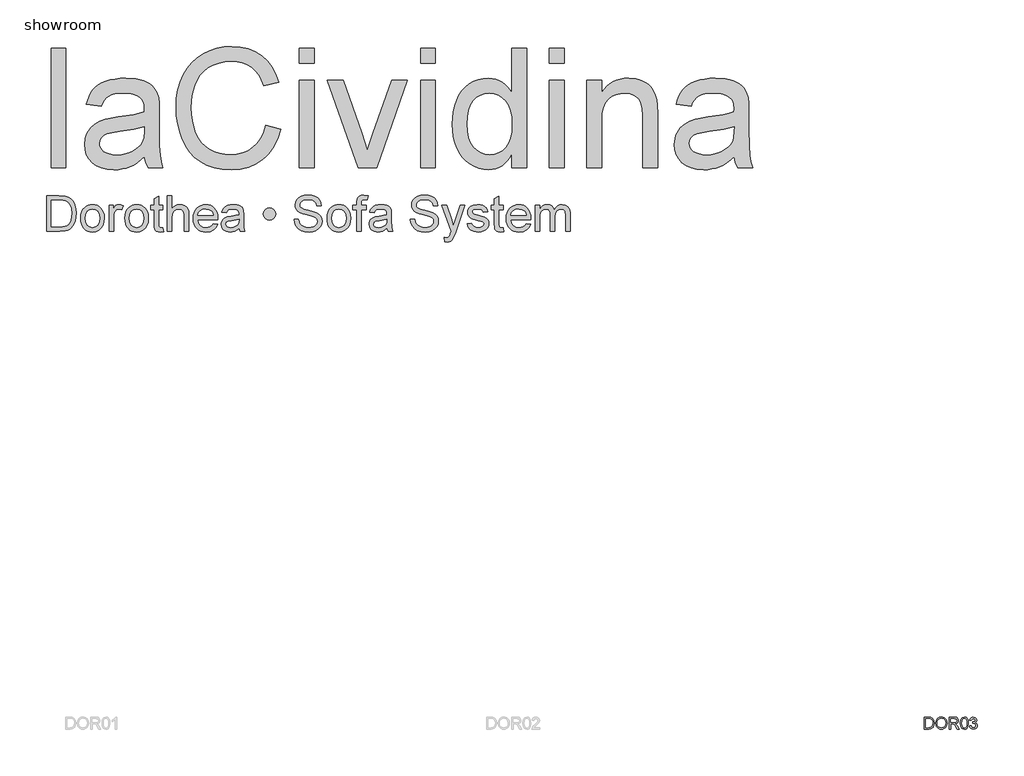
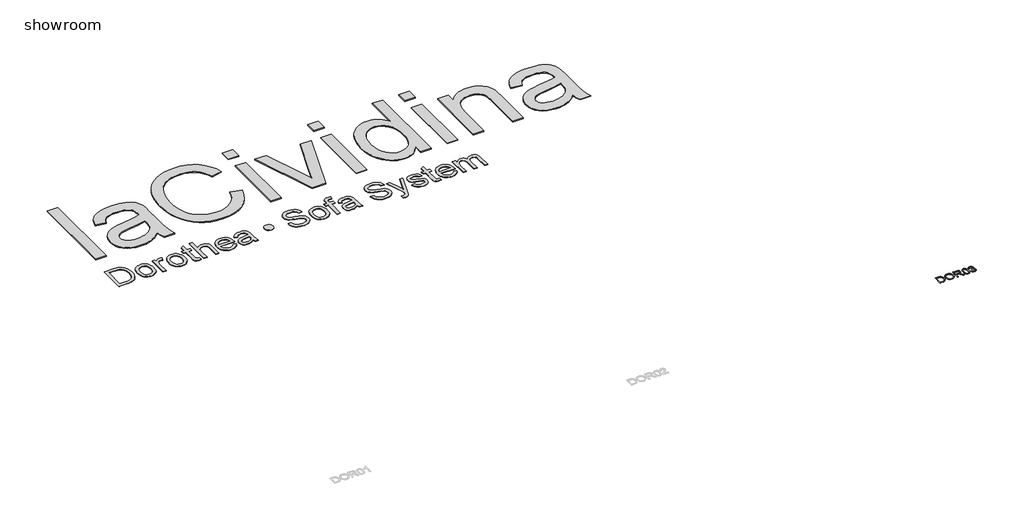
# One storey, part 3 of 4: 3 proxies.
"""IFC4 building model written with IfcOpenShell, lengths in millimetres."""

from ifc_helpers import new_model, si_unit, origin, origin_with_axes, place, context, project, spatial, polyline, outline, extrude, element, save

model = new_model("IFC4")

# Units and contexts
model_context = context("Model", 3, world=origin())
ifc_project = project(units=[si_unit("LENGTHUNIT", "METRE", prefix="MILLI")], contexts=[model_context])

# Site, building, storey
site = spatial("IfcSite", under=ifc_project)
building = spatial("IfcBuilding", under=site)
storey = spatial("IfcBuildingStorey", under=building, Name="showroom", Elevation=0.0)

# Proxies
placement = place(None, origin())
element("IfcBuildingElementProxy", 1, Name="1000mm Arial", ObjectType="1000mm Arial", at=placement, inside=storey, context=model_context, shape_type="SweptSolid", body=[
    extrude(outline(polyline([(-1952.8965336, 4695.1020807), (-1952.8965336, 5699.6651822), (-1827.326146, 5699.6651822), (-1827.326146, 4695.1020807), (-1952.8965336, 4695.1020807)])), origin_with_axes(), (0.0, 0.0, 1.0), 10.0),
    extrude(outline(polyline([(-1168.0816106, 4789.2798714), (-1197.8570596, 4761.3361682), (-1228.0770326, 4737.8377058), (-1258.7415298, 4718.7844841), (-1289.850551, 4704.1765032), (-1321.7566499, 4693.3393128), (-1354.81238, 4685.5984625), (-1389.0177413, 4680.9539523), (-1424.3727339, 4679.4057822), (-1480.283133, 4683.1305874), (-1529.311073, 4694.305003), (-1571.4565541, 4712.929029), (-1606.7195762, 4739.0026654), (-1634.5636447, 4770.8704433), (-1654.4522651, 4806.8768935), (-1666.3854373, 4847.0220163), (-1670.3631613, 4891.3058114), (-1664.3544221, 4943.3611138), (-1656.843498, 4967.5953402), (-1646.3282043, 4990.6339501), (-1618.5224569, 5031.1009696), (-1583.1751285, 5062.7388212), (-1541.6351199, 5086.6511509), (-1495.2513316, 5103.9416046), (-1450.0631599, 5113.5678502), (-1386.6035157, 5122.8262137), (-1258.2126994, 5142.6918415), (-1208.6406006, 5153.9122423), (-1168.8173746, 5165.9910345), (-1168.0816106, 5193.9500661), (-1170.2429173, 5224.3923012), (-1176.7268375, 5249.9907567), (-1187.5333711, 5270.7454326), (-1202.6625181, 5286.6563289), (-1228.8127966, 5302.5365684), (-1260.665246, 5313.8795966), (-1298.2198664, 5320.6854135), (-1341.4766577, 5322.9540191), (-1381.6984225, 5321.4441701), (-1416.27933, 5316.914623), (-1445.2193803, 5309.3653779), (-1468.5185733, 5298.7964348), (-1487.6637655, 5284.3800591), (-1504.1418132, 5265.2885164), (-1517.9527164, 5241.5218066), (-1529.0964752, 5213.0799299), (-1654.6668629, 5228.7762283), (-1645.1095952, 5264.9512912), (-1632.8698547, 5297.4475341), (-1617.9476412, 5326.2649571), (-1600.3429549, 5351.4035601), (-1579.2970391, 5373.3691809), (-1554.0511372, 5392.6676572), (-1524.6052492, 5409.2989891), (-1490.959375, 5423.2631765), (-1453.7956293, 5434.3149647), (-1413.7961265, 5442.2090992), (-1370.9608667, 5446.9455799), (-1325.2898499, 5448.5244068), (-1240.4010795, 5442.9448632), (-1204.5555776, 5435.9704337), (-1173.1093312, 5426.2062324), (-1122.3722727, 5401.0369726), (-1102.8208775, 5386.3140286), (-1087.1475717, 5370.1655418), (-1063.787065, 5331.9977848), (-1048.6425895, 5284.9395463), (-1044.0440646, 5241.5294708), (-1042.5112229, 5175.065457), (-1042.5112229, 5018.8382364), (-1040.9170676, 4882.752555), (-1036.1346017, 4800.6842133), (-1026.6922971, 4746.7588442), (-1011.118626, 4695.1020807), (-1136.6890137, 4695.1020807), (-1156.7998961, 4738.7574108), (-1168.0816106, 4789.2798714)]), holes=[polyline([(-1168.0816106, 5040.4206468), (-1252.4492148, 5019.5126868), (-1370.6619626, 5001.9156646), (-1435.8077326, 4992.2894191), (-1478.6966419, 4981.5595276), (-1506.8089577, 4967.6413254), (-1527.6249472, 4948.450148), (-1540.500817, 4925.4575233), (-1544.7927737, 4900.1349793), (-1542.4551901, 4880.6219052), (-1535.4424396, 4862.7949568), (-1523.7545221, 4846.6541343), (-1507.3914375, 4832.1994375), (-1486.50647, 4820.2892579), (-1461.2529039, 4811.7819868), (-1431.6307391, 4806.6776241), (-1397.6399756, 4804.9761699), (-1362.9364407, 4806.8539009), (-1330.1949431, 4812.487094), (-1299.4154829, 4821.8757491), (-1270.5980599, 4835.0198662), (-1244.6010656, 4850.8311278), (-1222.2828912, 4868.2212162), (-1203.6435368, 4887.1901316), (-1188.6830023, 4907.7378739), (-1179.9917902, 4926.1319736), (-1173.7837815, 4948.450148), (-1168.8173746, 5004.8587206), (-1168.0816106, 5040.4206468)])]), origin_with_axes(), (0.0, 0.0, 1.0), 10.0),
    extrude(outline(polyline([(-147.8222106, 5052.1928707), (-22.2518229, 5019.8192551), (-47.099186, 4941.7286374), (-80.1932372, 4873.4941915), (-121.5339764, 4815.1159174), (-145.296854, 4789.6228448), (-171.1214037, 4766.5938151), (-227.8365446, 4728.4490507), (-290.5604248, 4701.2027904), (-359.2930442, 4684.8550343), (-434.0344029, 4679.4057822), (-510.6075073, 4683.5291262), (-579.6850161, 4695.8991583), (-641.2669293, 4716.5158785), (-695.3532468, 4745.3792867), (-742.6873968, 4782.0601873), (-784.0128076, 4826.1293846), (-819.3294792, 4877.5868787), (-848.6374114, 4936.4326695), (-871.6530288, 5000.1222399), (-888.0927554, 5066.1110728), (-897.9565914, 5134.3991682), (-901.2445368, 5204.986526), (-897.5273958, 5280.7242317), (-886.3759728, 5351.4648737), (-867.7902678, 5417.208452), (-841.7702809, 5477.9549664), (-808.8984918, 5532.7004058), (-769.7573803, 5580.4407589), (-724.3469465, 5621.1760257), (-672.6671904, 5654.9062061), (-616.4732157, 5681.3553887), (-557.5201259, 5700.247662), (-495.8079212, 5711.583026), (-431.3366016, 5715.3614806), (-359.5153062, 5710.4717158), (-293.6567649, 5695.8024212), (-233.7609776, 5671.353597), (-179.8279442, 5637.125243), (-132.746713, 5594.0217359), (-93.4063322, 5542.9474522), (-61.8068016, 5483.902392), (-37.9481214, 5416.8865552), (-163.5185091, 5386.9654863), (-183.2921663, 5436.3459799), (-207.0512119, 5478.5374462), (-234.7956457, 5513.5398852), (-266.5254677, 5541.3532969), (-302.4246191, 5562.5448327), (-342.6770407, 5577.6816439), (-387.2827327, 5586.7637307), (-436.2416949, 5589.7910929), (-492.5736254, 5586.4341697), (-544.0924331, 5576.3634001), (-590.7981181, 5559.5787841), (-632.6906803, 5536.0803216), (-669.2412893, 5506.9256735), (-699.9211149, 5473.1725005), (-724.7301569, 5434.8208025), (-743.6684155, 5391.8705795), (-757.6709239, 5346.2685406), (-767.6727157, 5299.9613944), (-773.6737907, 5252.9491411), (-775.6741491, 5205.2317807), (-773.3059087, 5145.2670154), (-766.2011877, 5089.2263248), (-754.359986, 5037.1097089), (-737.7823036, 4988.9171675), (-716.1998932, 4945.6067268), (-689.3445075, 4908.1364127), (-657.2161466, 4876.5062253), (-619.8148104, 4850.7161646), (-578.9569164, 4830.7049169), (-536.4588817, 4816.4111686), (-492.3207065, 4807.8349196), (-446.5423907, 4804.9761699), (-391.9502355, 4808.8695877), (-341.7266789, 4820.549841), (-295.8717211, 4840.0169299), (-254.3853619, 4867.2708544), (-218.2486201, 4902.1889871), (-188.4425143, 4944.6487007), (-164.9670445, 4994.6499952), (-147.8222106, 5052.1928707)])), origin_with_axes(), (0.0, 0.0, 1.0), 10.0),
    extrude(outline(polyline([(134.7111617, 4695.1020807), (134.7111617, 5432.8281083), (260.2815493, 5432.8281083), (260.2815493, 4695.1020807), (134.7111617, 4695.1020807)])), origin_with_axes(), (0.0, 0.0, 1.0), 10.0),
    extrude(outline(polyline([(134.7111617, 5574.0947945), (134.7111617, 5699.6651822), (260.2815493, 5699.6651822), (260.2815493, 5574.0947945), (134.7111617, 5574.0947945)])), origin_with_axes(), (0.0, 0.0, 1.0), 10.0),
    extrude(outline(polyline([(629.6350725, 4695.1020807), (370.1556386, 5432.8281083), (503.0836662, 5432.8281083), (660.2919054, 4990.8792048), (707.6260555, 4842.2548787), (753.9791869, 4982.5405462), (912.1684448, 5432.8281083), (1045.0964724, 5432.8281083), (788.8053491, 4695.1020807), (629.6350725, 4695.1020807)])), origin_with_axes(), (0.0, 0.0, 1.0), 10.0),
    extrude(outline(polyline([(1154.9705616, 4695.1020807), (1154.9705616, 5432.8281083), (1280.5409493, 5432.8281083), (1280.5409493, 4695.1020807), (1154.9705616, 4695.1020807)])), origin_with_axes(), (0.0, 0.0, 1.0), 10.0),
    extrude(outline(polyline([(1154.9705616, 5574.0947945), (1154.9705616, 5699.6651822), (1280.5409493, 5699.6651822), (1280.5409493, 5574.0947945), (1154.9705616, 5574.0947945)])), origin_with_axes(), (0.0, 0.0, 1.0), 10.0),
    extrude(outline(polyline([(1924.0891862, 4695.1020807), (1924.0891862, 4813.5600831), (1906.2967268, 4782.1176688), (1886.5192374, 4754.8675765), (1864.7567182, 4731.809806), (1841.009169, 4712.9443574), (1815.2765898, 4698.2712308), (1787.5589807, 4687.790426), (1757.8563417, 4681.5019432), (1726.1686728, 4679.4057822), (1684.7206347, 4682.4408087), (1644.9893792, 4691.5458881), (1606.9749064, 4706.7210204), (1570.6772162, 4727.9662056), (1537.2306114, 4754.6453144), (1507.769395, 4786.1222176), (1482.2935668, 4822.3969152), (1460.8031269, 4863.4694071), (1443.7425994, 4908.5579442), (1431.5565083, 4956.8807771), (1424.2448537, 5008.4379059), (1421.8076355, 5063.2293305), (1424.0532485, 5117.0167439), (1430.7900875, 5168.2596401), (1442.0181526, 5216.9580192), (1457.7374436, 5263.1118812), (1477.9402965, 5305.3723254), (1502.6190471, 5342.3904512), (1531.7736952, 5374.1662585), (1565.4042409, 5400.6997474), (1602.322732, 5421.6230359), (1641.3412161, 5436.568242), (1682.4596932, 5445.5353656), (1725.6781635, 5448.5244068), (1757.2853582, 5446.3860927), (1787.1144567, 5439.9711504), (1815.1654588, 5429.2795799), (1841.4383646, 5414.3113812), (1865.6419342, 5395.9249457), (1887.4849277, 5374.9786646), (1906.967345, 5351.4725379), (1924.0891862, 5325.4065657), (1924.0891862, 5699.6651822), (2049.6595739, 5699.6651822), (2049.6595739, 4695.1020807), (1924.0891862, 4695.1020807)]), holes=[polyline([(1547.3780231, 5063.7198398), (1550.9188873, 5002.8277054), (1561.54148, 4950.1362738), (1579.245801, 4905.645545), (1604.0318504, 4869.3555191), (1633.6310226, 4841.1895538), (1665.7747119, 4821.0710072), (1700.4629184, 4808.9998792), (1737.695642, 4804.9761699), (1775.1046424, 4808.8159382), (1809.5859152, 4820.3352432), (1841.1394605, 4839.5340848), (1869.7652782, 4866.4124631), (1893.531988, 4901.1849758), (1910.5082092, 4944.0662209), (1920.693942, 4995.0561983), (1924.0891862, 5054.154908), (1920.6326283, 5118.9481244), (1910.2629545, 5174.5136341), (1892.980165, 5220.851437), (1868.7842596, 5257.9615333), (1839.5299768, 5286.3957458), (1807.0720549, 5306.7058977), (1771.410494, 5318.8919887), (1732.545294, 5322.9540191), (1694.5768065, 5319.0529371), (1659.8886, 5307.3496911), (1628.4806747, 5287.8442812), (1600.3530304, 5260.5367073), (1577.1764647, 5224.8291611), (1560.621775, 5180.1238345), (1550.6889611, 5126.4207274), (1547.3780231, 5063.7198398)])]), origin_with_axes(), (0.0, 0.0, 1.0), 10.0),
    extrude(outline(polyline([(2238.0151554, 4695.1020807), (2238.0151554, 5432.8281083), (2363.5855431, 5432.8281083), (2363.5855431, 4695.1020807), (2238.0151554, 4695.1020807)])), origin_with_axes(), (0.0, 0.0, 1.0), 10.0),
    extrude(outline(polyline([(2238.0151554, 5574.0947945), (2238.0151554, 5699.6651822), (2363.5855431, 5699.6651822), (2363.5855431, 5574.0947945), (2238.0151554, 5574.0947945)])), origin_with_axes(), (0.0, 0.0, 1.0), 10.0),
    extrude(outline(polyline([(2551.9411246, 4695.1020807), (2551.9411246, 5432.8281083), (2677.5115123, 5432.8281083), (2677.5115123, 5329.8211497), (2698.2278672, 5357.6422256), (2721.1361856, 5381.7538247), (2746.2364675, 5402.155947), (2773.5287131, 5418.8485925), (2803.0129221, 5431.8317613), (2834.6890948, 5441.1054532), (2868.5572309, 5446.6696684), (2904.6173307, 5448.5244068), (2966.5134764, 5442.5463244), (2995.5071761, 5435.0737213), (3023.1979605, 5424.6120771), (3048.5358329, 5411.7208789), (3070.4707968, 5396.9596138), (3089.0028523, 5380.3282819), (3104.1319994, 5361.8268833), (3126.9713399, 5319.305856), (3141.7785902, 5269.4885025), (3146.7449972, 5221.8477841), (3148.4004661, 5148.0874441), (3148.4004661, 4695.1020807), (3022.8300785, 4695.1020807), (3022.8300785, 5131.1648723), (3019.2125722, 5196.0960444), (3008.3600533, 5242.2652348), (2999.7378191, 5259.7319654), (2988.3411414, 5275.3439576), (2974.1700204, 5289.1012113), (2957.224456, 5301.0037267), (2917.3399163, 5317.466446), (2871.0174418, 5322.9540191), (2832.8880058, 5319.8730074), (2797.4716996, 5310.6299723), (2764.7685231, 5295.2249137), (2734.7784762, 5273.6578318), (2709.7241795, 5243.4761797), (2691.8282533, 5202.227411), (2681.0906976, 5149.9115256), (2677.5115123, 5086.5285235), (2677.5115123, 4695.1020807), (2551.9411246, 4695.1020807)])), origin_with_axes(), (0.0, 0.0, 1.0), 10.0),
    extrude(outline(polyline([(3791.948703, 4789.2798714), (3762.1732541, 4761.3361682), (3731.953281, 4737.8377058), (3701.2887839, 4718.7844841), (3670.1797626, 4704.1765032), (3638.2736638, 4693.3393128), (3605.2179337, 4685.5984625), (3571.0125723, 4680.9539523), (3535.6575797, 4679.4057822), (3479.7471807, 4683.1305874), (3430.7192406, 4694.305003), (3388.5737595, 4712.929029), (3353.3107375, 4739.0026654), (3325.466669, 4770.8704433), (3305.5780486, 4806.8768935), (3293.6448764, 4847.0220163), (3289.6671523, 4891.3058114), (3295.6758915, 4943.3611138), (3303.1868156, 4967.5953402), (3313.7021093, 4990.6339501), (3341.5078568, 5031.1009696), (3376.8551852, 5062.7388212), (3418.3951938, 5086.6511509), (3464.778982, 5103.9416046), (3509.9671537, 5113.5678502), (3573.4267979, 5122.8262137), (3701.8176142, 5142.6918415), (3751.3897131, 5153.9122423), (3791.2129391, 5165.9910345), (3791.948703, 5193.9500661), (3789.7873963, 5224.3923012), (3783.3034762, 5249.9907567), (3772.4969425, 5270.7454326), (3757.3677955, 5286.6563289), (3731.217517, 5302.5365684), (3699.3650676, 5313.8795966), (3661.8104472, 5320.6854135), (3618.553656, 5322.9540191), (3578.3318912, 5321.4441701), (3543.7509836, 5316.914623), (3514.8109333, 5309.3653779), (3491.5117403, 5298.7964348), (3472.3665481, 5284.3800591), (3455.8885004, 5265.2885164), (3442.0775972, 5241.5218066), (3430.9338384, 5213.0799299), (3305.3634508, 5228.7762283), (3314.9207184, 5264.9512912), (3327.160459, 5297.4475341), (3342.0826724, 5326.2649571), (3359.6873587, 5351.4035601), (3380.7332745, 5373.3691809), (3405.9791764, 5392.6676572), (3435.4250645, 5409.2989891), (3469.0709386, 5423.2631765), (3506.2346843, 5434.3149647), (3546.2341871, 5442.2090992), (3589.0694469, 5446.9455799), (3634.7404638, 5448.5244068), (3719.6292342, 5442.9448632), (3755.4747361, 5435.9704337), (3786.9209824, 5426.2062324), (3837.6580409, 5401.0369726), (3857.2094361, 5386.3140286), (3872.882742, 5370.1655418), (3896.2432487, 5331.9977848), (3911.3877241, 5284.9395463), (3915.9862491, 5241.5294708), (3917.5190907, 5175.065457), (3917.5190907, 5018.8382364), (3919.113246, 4882.752555), (3923.895712, 4800.6842133), (3933.3380165, 4746.7588442), (3948.9116877, 4695.1020807), (3823.3413, 4695.1020807), (3803.2304176, 4738.7574108), (3791.948703, 4789.2798714)]), holes=[polyline([(3791.948703, 5040.4206468), (3707.5810988, 5019.5126868), (3589.368351, 5001.9156646), (3524.2225811, 4992.2894191), (3481.3336718, 4981.5595276), (3453.221356, 4967.6413254), (3432.4053664, 4948.450148), (3419.5294966, 4925.4575233), (3415.23754, 4900.1349793), (3417.5751235, 4880.6219052), (3424.587874, 4862.7949568), (3436.2757916, 4846.6541343), (3452.6388762, 4832.1994375), (3473.5238436, 4820.2892579), (3498.7774097, 4811.7819868), (3528.3995745, 4806.6776241), (3562.3903381, 4804.9761699), (3597.0938729, 4806.8539009), (3629.8353705, 4812.487094), (3660.6148308, 4821.8757491), (3689.4322537, 4835.0198662), (3715.429248, 4850.8311278), (3737.7474224, 4868.2212162), (3756.3867768, 4887.1901316), (3771.3473113, 4907.7378739), (3780.0385234, 4926.1319736), (3786.2465321, 4948.450148), (3791.2129391, 5004.8587206), (3791.948703, 5040.4206468)])]), origin_with_axes(), (0.0, 0.0, 1.0), 10.0),
])
element("IfcBuildingElementProxy", 2, Name="100mm Arial", ObjectType="100mm Arial", at=placement, inside=storey, context=model_context, shape_type="SweptSolid", body=[
    extrude(outline(polyline([(5391.8123559, -24.8979193), (5391.8123559, 75.5583908), (5426.4668398, 75.5583908), (5444.3949557, 74.1113883), (5459.1592865, 66.9254267), (5471.0541377, 49.7576002), (5475.0027377, 25.869796), (5472.3294619, 5.5994981), (5465.4623313, -9.0299426), (5456.2898069, -18.1411534), (5444.2845911, -23.1811367), (5428.1345716, -24.8979193), (5391.8123559, -24.8979193)]), holes=[polyline([(5404.3693947, -12.3408806), (5426.5894672, -12.3408806), (5442.7517495, -10.5259961), (5452.0714267, -5.4001736), (5459.7111095, 7.0710261), (5462.445699, 26.0659997), (5461.1059954, 39.75121), (5457.0868846, 49.8557021), (5444.0515992, 60.9902638), (5426.2461106, 63.0013521), (5404.3693947, 63.0013521), (5404.3693947, -12.3408806)])]), origin_with_axes(), (0.0, 0.0, 1.0), 2.0),
    extrude(outline(polyline([(5487.5597765, 24.0058606), (5490.9075027, 46.2198017), (5500.9506811, 63.0258775), (5516.285229, 73.6024849), (5535.5070632, 77.1280207), (5548.68337, 75.4725517), (5560.4985134, 70.5061448), (5570.3087, 62.5782878), (5577.4701361, 52.0384686), (5581.8479319, 39.3955907), (5583.3071971, 25.1585575), (5581.7712898, 10.7314519), (5577.1635678, -2.0892356), (5569.7384829, -12.6474489), (5559.7504867, -20.2871317), (5548.0365108, -24.9224448), (5535.4334868, -26.4675492), (5522.0548449, -24.7599636), (5510.1722565, -19.6372068), (5500.3865954, -11.562197), (5493.2987356, -0.9978524), (5487.5597765, 24.0058606)]), holes=[polyline([(5500.1168153, 23.8832332), (5502.6276099, 8.1685407), (5510.1599937, -3.8060183), (5521.4815622, -11.3843874), (5535.3599104, -13.9105104), (5549.4405938, -11.3598619), (5560.7805563, -3.7079164), (5568.2577578, 8.6345245), (5570.7501584, 25.2566593), (5566.4827272, 45.9806784), (5554.0115276, 59.7026768), (5535.5806396, 64.5709819), (5522.073239, 62.2257342), (5510.5891894, 55.189991), (5502.7349088, 42.6728061), (5500.1168153, 23.8832332)])]), origin_with_axes(), (0.0, 0.0, 1.0), 2.0),
    extrude(outline(polyline([(5600.5731254, -24.8979193), (5600.5731254, 75.5583908), (5643.8605735, 75.5583908), (5663.9591932, 72.8483268), (5674.9466021, 63.2588694), (5679.0546177, 48.065343), (5677.3531635, 38.1693174), (5672.2488008, 29.9655489), (5663.5882455, 23.9506783), (5651.2182134, 20.6213462), (5658.3551241, 15.2502691), (5668.5331927, 2.3253483), (5685.2840862, -24.8979193), (5670.6914337, -24.8979193), (5657.6193601, -4.0757984), (5648.1770556, 9.7075137), (5641.542917, 16.219025), (5635.5709659, 18.610258), (5628.2869024, 19.0517164), (5613.1301642, 19.0517164), (5613.1301642, -24.8979193), (5600.5731254, -24.8979193)]), holes=[polyline([(5613.1301642, 31.6087551), (5641.2363486, 31.6087551), (5655.5714837, 33.3868514), (5663.7139385, 39.0767596), (5666.497579, 47.5993592), (5661.1878155, 58.6603445), (5644.4001338, 63.0013521), (5613.1301642, 63.0013521), (5613.1301642, 31.6087551)])]), origin_with_axes(), (0.0, 0.0, 1.0), 2.0),
    extrude(outline(polyline([(5696.320546, 24.5208954), (5700.0116287, 53.4241574), (5710.9745122, 70.0892118), (5729.2827728, 75.5583908), (5743.9490017, 72.3210293), (5754.0780193, 62.9890893), (5759.9641312, 48.1266567), (5762.2449996, 24.5208954), (5758.5907051, -4.2597394), (5747.6646098, -20.961582), (5739.4332502, -25.0910574), (5729.2827728, -26.4675492), (5716.2352247, -24.0763162), (5706.3269363, -16.9026173), (5698.8221436, 0.0873995), (5696.320546, 24.5208954)]), holes=[polyline([(5708.8775848, 24.5454208), (5710.3491128, 4.7932234), (5714.7636967, -6.6387096), (5721.3365217, -12.0925602), (5729.2827728, -13.9105104), (5737.2290239, -12.0864288), (5743.8018489, -6.6141842), (5748.2164328, 4.8238802), (5749.6879608, 24.5454208), (5748.2654838, 43.8530942), (5743.9980526, 55.373932), (5737.4374904, 61.094497), (5729.13562, 63.0013521), (5721.275208, 61.3213576), (5714.9599005, 56.2813743), (5710.3981637, 44.0431666), (5708.8775848, 24.5454208)])]), origin_with_axes(), (0.0, 0.0, 1.0), 2.0),
    extrude(outline(polyline([(5773.2324085, 1.7857881), (5785.7894473, 3.3554179), (5792.7178915, -9.8638085), (5805.6796005, -13.9105104), (5814.2880392, -12.5186902), (5820.9344405, -8.3432295), (5826.5998233, 5.4400825), (5820.9834915, 18.426317), (5806.7096701, 23.5644022), (5797.9050276, 22.1909761), (5799.3029792, 34.7480148), (5801.3140675, 34.600862), (5815.5633634, 38.2061056), (5820.3090411, 42.7801051), (5821.8909337, 49.2916164), (5817.3046715, 59.1140656), (5805.4833967, 63.0013521), (5793.5149692, 59.0772774), (5787.3590771, 47.3050536), (5774.8020383, 48.8746834), (5778.4992524, 60.1502666), (5785.0782087, 68.5686329), (5794.0790549, 73.8109513), (5805.0419383, 75.5583908), (5820.1864138, 72.1125628), (5830.7814153, 62.6947837), (5834.4479725, 50.0273804), (5830.9653563, 38.4513602), (5820.6646604, 30.1372272), (5834.3498706, 21.5533139), (5839.156862, 5.2193533), (5836.7533663, -7.0188544), (5829.5428792, -17.2459738), (5818.6597035, -24.1621553), (5805.2381421, -26.4675492), (5793.0980362, -24.4993805), (5783.2142733, -18.5948745), (5776.3410114, -9.5633715), (5773.2324085, 1.7857881)])), origin_with_axes(), (0.0, 0.0, 1.0), 2.0),
])
element("IfcBuildingElementProxy", 3, Name="300mm Arial", ObjectType="300mm Arial", at=placement, inside=storey, context=model_context, shape_type="SweptSolid", body=[
    extrude(outline(polyline([(-1990.3620976, 4160.1020807), (-1990.3620976, 4461.4710111), (-1886.3986458, 4461.4710111), (-1832.6142981, 4457.1300036), (-1808.5916038, 4448.7606882), (-1788.3213059, 4435.5721187), (-1767.4807909, 4412.6162822), (-1752.6367524, 4384.0686393), (-1743.7524022, 4350.4810132), (-1740.7909521, 4312.4052267), (-1742.795909, 4280.0592022), (-1748.8107796, 4251.5943329), (-1757.9710413, 4227.3601064), (-1769.4121713, 4207.7060108), (-1782.5823468, 4192.1905877), (-1796.9297446, 4180.3723786), (-1813.4016609, 4171.6075901), (-1832.9453919, 4165.2524286), (-1881.3954507, 4160.1020807), (-1990.3620976, 4160.1020807)]), holes=[polyline([(-1952.6909813, 4197.773197), (-1886.0307638, 4197.773197), (-1858.4580083, 4199.1343604), (-1837.5439168, 4203.2178505), (-1821.7617792, 4209.7845441), (-1809.5848852, 4218.5953179), (-1796.4974832, 4234.9016873), (-1786.6658369, 4256.0089168), (-1780.5130105, 4282.0089768), (-1778.4620684, 4312.9938379), (-1782.4811792, 4354.0494685), (-1794.5385116, 4384.3629449), (-1812.3531972, 4405.1850659), (-1833.6443677, 4417.7666301), (-1855.3126172, 4422.2915786), (-1887.0608334, 4423.7998948), (-1952.6909813, 4423.7998948), (-1952.6909813, 4197.773197)])]), origin_with_axes(), (0.0, 0.0, 1.0), 5.0),
    extrude(outline(polyline([(-1703.1198358, 4270.7609848), (-1701.0826893, 4299.4235908), (-1694.9712496, 4324.1222682), (-1684.7855169, 4344.8570172), (-1670.525491, 4361.6278376), (-1656.1688962, 4372.3469993), (-1640.3223792, 4380.0035433), (-1622.9859402, 4384.5974697), (-1604.1595791, 4386.1287785), (-1583.3765456, 4384.2640766), (-1564.5846735, 4378.6699711), (-1547.7839626, 4369.3464617), (-1532.974413, 4356.2935487), (-1520.8871902, 4339.9526903), (-1512.2534597, 4320.765345), (-1507.0732213, 4298.7315128), (-1505.3464752, 4273.8511936), (-1508.3998958, 4235.7938012), (-1517.5601574, 4206.8230941), (-1532.5605458, 4185.1272534), (-1553.1343464, 4168.8944604), (-1577.5709079, 4158.7685084), (-1604.1595791, 4155.3931911), (-1625.2461152, 4157.2509952), (-1644.2127313, 4162.8244074), (-1661.0594274, 4172.1134278), (-1675.7862036, 4185.1180563), (-1687.7446677, 4201.6175638), (-1696.2864277, 4221.3912211), (-1701.4114838, 4244.4390281), (-1703.1198358, 4270.7609848)]), holes=[polyline([(-1665.4487195, 4270.8345612), (-1661.0893179, 4236.7410973), (-1648.0111129, 4212.4516886), (-1628.3294262, 4197.9111527), (-1604.1595791, 4193.0643074), (-1580.1000966, 4197.9387439), (-1560.4551981, 4212.5620532), (-1547.3769931, 4237.1733587), (-1543.0175915, 4272.0117836), (-1547.4045843, 4305.1119661), (-1560.5655627, 4329.0702811), (-1580.2380524, 4343.6108169), (-1604.1595791, 4348.4576622), (-1628.3294262, 4343.629211), (-1648.0111129, 4329.1438575), (-1661.0893179, 4304.909631), (-1665.4487195, 4270.8345612)])]), origin_with_axes(), (0.0, 0.0, 1.0), 5.0),
    extrude(outline(polyline([(-1462.9664693, 4160.1020807), (-1462.9664693, 4381.419889), (-1430.0042426, 4381.419889), (-1430.0042426, 4348.6783914), (-1417.8273485, 4367.6611024), (-1406.6069477, 4378.844715), (-1395.3497586, 4384.3077626), (-1383.0625, 4386.1287785), (-1364.3005182, 4383.2225107), (-1345.2442309, 4374.5037075), (-1357.8257951, 4340.7321403), (-1371.069547, 4346.5262817), (-1384.3132988, 4348.4576622), (-1395.5612908, 4346.5998581), (-1405.6136663, 4341.0264459), (-1413.7346613, 4332.1604898), (-1419.1885119, 4320.4250542), (-1423.7686428, 4299.382204), (-1425.295353, 4276.4263675), (-1425.295353, 4160.1020807), (-1462.9664693, 4160.1020807)])), origin_with_axes(), (0.0, 0.0, 1.0), 5.0),
    extrude(outline(polyline([(-1331.1175623, 4270.7609848), (-1329.0804157, 4299.4235908), (-1322.9689761, 4324.1222682), (-1312.7832433, 4344.8570172), (-1298.5232175, 4361.6278376), (-1284.1666226, 4372.3469993), (-1268.3201057, 4380.0035433), (-1250.9836667, 4384.5974697), (-1232.1573056, 4386.1287785), (-1211.3742721, 4384.2640766), (-1192.5823999, 4378.6699711), (-1175.7816891, 4369.3464617), (-1160.9721395, 4356.2935487), (-1148.8849167, 4339.9526903), (-1140.2511861, 4320.765345), (-1135.0709478, 4298.7315128), (-1133.3442017, 4273.8511936), (-1136.3976222, 4235.7938012), (-1145.5578839, 4206.8230941), (-1160.5582723, 4185.1272534), (-1181.1320728, 4168.8944604), (-1205.5686344, 4158.7685084), (-1232.1573056, 4155.3931911), (-1253.2438417, 4157.2509952), (-1272.2104578, 4162.8244074), (-1289.0571539, 4172.1134278), (-1303.78393, 4185.1180563), (-1315.7423941, 4201.6175638), (-1324.2841542, 4221.3912211), (-1329.4092103, 4244.4390281), (-1331.1175623, 4270.7609848)]), holes=[polyline([(-1293.446446, 4270.8345612), (-1289.0870443, 4236.7410973), (-1276.0088394, 4212.4516886), (-1256.3271527, 4197.9111527), (-1232.1573056, 4193.0643074), (-1208.0978231, 4197.9387439), (-1188.4529245, 4212.5620532), (-1175.3747196, 4237.1733587), (-1171.015318, 4272.0117836), (-1175.4023108, 4305.1119661), (-1188.5632891, 4329.0702811), (-1208.2357788, 4343.6108169), (-1232.1573056, 4348.4576622), (-1256.3271527, 4343.629211), (-1276.0088394, 4329.1438575), (-1289.0870443, 4304.909631), (-1293.446446, 4270.8345612)])]), origin_with_axes(), (0.0, 0.0, 1.0), 5.0),
    extrude(outline(polyline([(-1010.9130737, 4191.5192031), (-1006.2041841, 4158.9984347), (-1034.383945, 4155.3931911), (-1052.465345, 4156.9566896), (-1065.9482202, 4161.6471851), (-1075.4763638, 4168.8760663), (-1081.6935695, 4178.054722), (-1085.1148721, 4193.8184655), (-1086.2553063, 4220.8026099), (-1086.2553063, 4343.7487727), (-1114.5086435, 4343.7487727), (-1114.5086435, 4381.419889), (-1086.2553063, 4381.419889), (-1086.2553063, 4435.2042367), (-1048.58419, 4457.3507328), (-1048.58419, 4381.419889), (-1010.9130737, 4381.419889), (-1010.9130737, 4343.7487727), (-1048.58419, 4343.7487727), (-1048.58419, 4221.9062559), (-1046.5976272, 4202.4820865), (-1040.1596923, 4195.6026932), (-1027.3206107, 4193.0643074), (-1010.9130737, 4191.5192031)])), origin_with_axes(), (0.0, 0.0, 1.0), 5.0),
    extrude(outline(polyline([(-973.2419574, 4160.1020807), (-973.2419574, 4461.4710111), (-935.5708411, 4461.4710111), (-935.5708411, 4350.6649542), (-921.7338795, 4366.1803773), (-906.1954637, 4377.2628224), (-888.9555938, 4383.9122895), (-870.0142695, 4386.1287785), (-847.2607681, 4383.7099544), (-827.7078401, 4376.453482), (-812.3119786, 4364.9295785), (-802.0296768, 4349.708461), (-796.2355354, 4328.7943696), (-794.3041549, 4300.1915444), (-794.3041549, 4160.1020807), (-831.9752712, 4160.1020807), (-831.9752712, 4296.2919953), (-834.9735095, 4319.8732312), (-843.9682243, 4336.0232508), (-858.4627749, 4345.3490593), (-877.9605206, 4348.4576622), (-893.880614, 4346.3607348), (-908.82582, 4340.0699527), (-921.2050492, 4330.1923211), (-929.4272117, 4317.3348454), (-934.0349337, 4300.2467267), (-935.5708411, 4277.6771663), (-935.5708411, 4160.1020807), (-973.2419574, 4160.1020807)])), origin_with_axes(), (0.0, 0.0, 1.0), 5.0),
    extrude(outline(polyline([(-587.5544736, 4226.0265342), (-550.6191213, 4221.3176447), (-563.9272525, 4193.4873717), (-585.1632407, 4172.6836449), (-613.8488392, 4159.7158046), (-649.5058016, 4155.3931911), (-672.8801039, 4157.257893), (-693.7068233, 4162.8519986), (-711.98596, 4172.1755079), (-727.7175138, 4185.2284209), (-740.3680559, 4201.6474542), (-749.4041574, 4221.0693243), (-754.8258183, 4243.4940312), (-756.6330386, 4268.9215748), (-754.8074242, 4295.2113419), (-749.330581, 4318.3833091), (-740.202509, 4338.4374764), (-727.4232082, 4355.3738437), (-711.7330411, 4368.8291277), (-693.8723702, 4378.4400448), (-673.8411956, 4384.2065951), (-651.6395172, 4386.1287785), (-630.1529094, 4384.2111936), (-610.7218423, 4378.4584389), (-593.3463158, 4368.8705144), (-578.02633, 4355.4474201), (-565.5206414, 4338.547841), (-556.5880067, 4318.5304619), (-551.2284259, 4295.3952829), (-549.4418989, 4269.142304), (-549.6626281, 4258.988761), (-718.9619223, 4258.988761), (-712.4412139, 4230.790606), (-697.2936728, 4210.0604556), (-675.4322852, 4197.3133445), (-648.7700376, 4193.0643074), (-628.7204689, 4195.0324761), (-611.8346853, 4200.9369821), (-598.1126869, 4211.1457075), (-587.5544736, 4226.0265342)]), holes=[polyline([(-718.9619223, 4296.6598773), (-587.1130152, 4296.6598773), (-592.2081809, 4316.5622932), (-602.196177, 4330.7993264), (-624.1587321, 4344.0430783), (-651.78667, 4348.4576622), (-677.1797247, 4344.9351921), (-698.1765896, 4334.3677818), (-712.7723077, 4317.8958655), (-718.9619223, 4296.6598773)])]), origin_with_axes(), (0.0, 0.0, 1.0), 5.0),
    extrude(outline(polyline([(-370.5040965, 4188.3554179), (-388.5027231, 4172.9227682), (-407.0347786, 4162.8244074), (-426.5233273, 4157.2509952), (-447.3914335, 4155.3931911), (-478.8729352, 4159.8629574), (-502.0954861, 4173.2722561), (-516.4152928, 4193.6345245), (-521.1885617, 4218.9631999), (-519.3859399, 4234.5797906), (-513.9780746, 4248.7616415), (-505.6363504, 4260.9017474), (-495.0321518, 4270.3931028), (-468.6550128, 4282.7539379), (-436.060668, 4288.4193206), (-397.5434231, 4294.3790089), (-370.7248257, 4301.3687668), (-370.5040965, 4309.7564763), (-373.0976645, 4326.5686835), (-380.8783687, 4337.5683551), (-398.2791871, 4345.7353354), (-422.5226106, 4348.4576622), (-444.9634123, 4346.6458434), (-460.6351853, 4341.2103869), (-471.3221573, 4331.1580114), (-478.8085559, 4315.4954354), (-516.4796722, 4320.204325), (-509.9405697, 4340.8057167), (-500.1824998, 4356.9925245), (-486.2949545, 4369.3717536), (-467.3674258, 4378.5504094), (-444.2184513, 4384.2341862), (-417.6665683, 4386.1287785), (-392.1999371, 4384.4549154), (-372.0124127, 4379.4333262), (-356.7912951, 4371.8825482), (-346.2238848, 4362.621119), (-339.2157328, 4351.1707919), (-334.6723901, 4337.0533204), (-332.8329802, 4304.0910936), (-332.8329802, 4257.2229274), (-330.9199938, 4191.7767205), (-323.4152011, 4160.1020807), (-361.0863174, 4160.1020807), (-370.5040965, 4188.3554179)]), holes=[polyline([(-370.5040965, 4263.6976505), (-431.2782021, 4252.1461559), (-463.6886059, 4246.0393147), (-478.3670975, 4236.1065009), (-483.5174454, 4221.6119503), (-480.7123452, 4210.4099435), (-472.2970445, 4201.2312877), (-458.4554845, 4195.1060525), (-439.371606, 4193.0643074), (-419.1380962, 4195.3175847), (-401.2590313, 4202.0774163), (-386.7644807, 4212.0378213), (-376.684514, 4223.8928186), (-372.2147478, 4236.1065009), (-370.7248257, 4253.0290727), (-370.5040965, 4263.6976505)])]), origin_with_axes(), (0.0, 0.0, 1.0), 5.0),
    extrude(outline(polyline([(-168.0218463, 4306.1512328), (-164.2142677, 4326.0444516), (-152.7915317, 4342.7554913), (-136.0529009, 4354.0954538), (-116.2976378, 4357.8754413), (-96.4320101, 4354.0954538), (-79.6565911, 4342.7554913), (-68.2338551, 4326.0444516), (-64.4262765, 4306.1512328), (-68.2338551, 4286.285605), (-79.6565911, 4269.510186), (-96.4320101, 4258.0874501), (-116.2976378, 4254.2798714), (-136.0529009, 4258.0874501), (-152.7915317, 4269.510186), (-164.2142677, 4286.285605), (-168.0218463, 4306.1512328)])), origin_with_axes(), (0.0, 0.0, 1.0), 5.0),
    extrude(outline(polyline([(90.9670783, 4263.6976505), (128.6381946, 4263.6976505), (132.960808, 4242.7927561), (140.7783004, 4225.989746), (152.9735886, 4212.6540237), (170.4295892, 4202.1509927), (191.766745, 4195.3359788), (215.6054982, 4193.0643074), (236.5931661, 4194.7841558), (254.9688717, 4199.9437007), (269.8588955, 4208.110681), (280.3895176, 4218.8528353), (286.6527086, 4231.1860792), (288.7404389, 4244.1263284), (287.1769404, 4256.7354838), (282.486445, 4267.6339879), (272.9583013, 4276.9322053), (256.8818581, 4284.7405006), (202.0306526, 4299.1246866), (166.0242023, 4308.6436333), (142.9855924, 4317.7027274), (124.2328077, 4330.3762621), (110.9430706, 4345.7353354), (103.0244107, 4363.4488535), (100.3848574, 4383.1857225), (103.6498101, 4405.2494452), (113.4446682, 4425.8232458), (129.5119143, 4443.2608524), (151.5940311, 4455.915993), (178.0999288, 4463.6139237), (207.438518, 4466.1799007), (239.2235223, 4463.4943621), (267.0354012, 4455.4377464), (289.8808731, 4442.1756005), (306.7666566, 4423.8734712), (317.4536286, 4401.6717928), (321.7026657, 4376.7109994), (284.0315493, 4376.7109994), (277.1153678, 4399.1885893), (262.6943936, 4415.4121853), (240.1616214, 4425.2346346), (208.9100459, 4428.5087844), (176.9227065, 4425.2714228), (154.9785454, 4415.5593381), (142.2866166, 4401.2671226), (138.0559737, 4384.2893685), (141.0542119, 4369.813212), (150.0489267, 4358.1697469), (171.312506, 4347.7586864), (211.5587963, 4337.1268968), (253.0926736, 4327.028536), (278.2190138, 4318.2177622), (299.6941253, 4304.5509461), (314.6761195, 4287.6835566), (323.4776963, 4267.7995348), (326.4115552, 4245.0828216), (323.0362379, 4221.8602706), (312.910286, 4200.0172771), (296.4475667, 4181.2185072), (274.0619473, 4167.1286268), (247.1421823, 4158.32705), (217.0770262, 4155.3931911), (180.1692651, 4158.5569763), (149.7914093, 4168.0483318), (125.5939711, 4183.9040458), (107.2274625, 4206.1609065), (95.4368445, 4233.2738095), (90.9670783, 4263.6976505)])), origin_with_axes(), (0.0, 0.0, 1.0), 5.0),
    extrude(outline(polyline([(368.791561, 4270.7609848), (370.8287076, 4299.4235908), (376.9401472, 4324.1222682), (387.12588, 4344.8570172), (401.3859058, 4361.6278376), (415.7425007, 4372.3469993), (431.5890176, 4380.0035433), (448.9254566, 4384.5974697), (467.7518177, 4386.1287785), (488.5348512, 4384.2640766), (507.3267234, 4378.6699711), (524.1274342, 4369.3464617), (538.9369838, 4356.2935487), (551.0242066, 4339.9526903), (559.6579372, 4320.765345), (564.8381755, 4298.7315128), (566.5649216, 4273.8511936), (563.5115011, 4235.7938012), (554.3512394, 4206.8230941), (539.350851, 4185.1272534), (518.7770505, 4168.8944604), (494.3404889, 4158.7685084), (467.7518177, 4155.3931911), (446.6652816, 4157.2509952), (427.6986655, 4162.8244074), (410.8519694, 4172.1134278), (396.1251933, 4185.1180563), (384.1667292, 4201.6175638), (375.6249691, 4221.3912211), (370.499913, 4244.4390281), (368.791561, 4270.7609848)]), holes=[polyline([(406.4626773, 4270.8345612), (410.822079, 4236.7410973), (423.9002839, 4212.4516886), (443.5819707, 4197.9111527), (467.7518177, 4193.0643074), (491.8113002, 4197.9387439), (511.4561988, 4212.5620532), (524.5344037, 4237.1733587), (528.8938053, 4272.0117836), (524.5068125, 4305.1119661), (511.3458342, 4329.0702811), (491.6733445, 4343.6108169), (467.7518177, 4348.4576622), (443.5819707, 4343.629211), (423.9002839, 4329.1438575), (410.822079, 4304.909631), (406.4626773, 4270.8345612)])]), origin_with_axes(), (0.0, 0.0, 1.0), 5.0),
    extrude(outline(polyline([(618.3627066, 4160.1020807), (618.3627066, 4343.7487727), (585.4004798, 4343.7487727), (585.4004798, 4381.419889), (618.3627066, 4381.419889), (618.3627066, 4403.7135379), (622.3358321, 4435.1306603), (629.9142012, 4447.6570422), (641.6128487, 4457.571462), (657.9835974, 4464.027791), (679.5782706, 4466.1799007), (713.9384489, 4462.0596223), (708.420219, 4426.7429508), (686.7151813, 4428.5087844), (672.3953746, 4426.9452859), (662.9867926, 4422.2547904), (657.7720653, 4413.2968639), (656.0338229, 4398.9310719), (656.0338229, 4381.419889), (698.4138287, 4381.419889), (698.4138287, 4343.7487727), (656.0338229, 4343.7487727), (656.0338229, 4160.1020807), (618.3627066, 4160.1020807)])), origin_with_axes(), (0.0, 0.0, 1.0), 5.0),
    extrude(outline(polyline([(872.6427416, 4188.3554179), (854.644115, 4172.9227682), (836.1120595, 4162.8244074), (816.6235108, 4157.2509952), (795.7554046, 4155.3931911), (764.2739029, 4159.8629574), (741.051352, 4173.2722561), (726.7315453, 4193.6345245), (721.9582764, 4218.9631999), (723.7608982, 4234.5797906), (729.1687635, 4248.7616415), (737.5104878, 4260.9017474), (748.1146863, 4270.3931028), (774.4918253, 4282.7539379), (807.0861701, 4288.4193206), (845.603415, 4294.3790089), (872.4220124, 4301.3687668), (872.6427416, 4309.7564763), (870.0491736, 4326.5686835), (862.2684694, 4337.5683551), (844.867651, 4345.7353354), (820.6242275, 4348.4576622), (798.1834258, 4346.6458434), (782.5116528, 4341.2103869), (771.8246809, 4331.1580114), (764.3382822, 4315.4954354), (726.6671659, 4320.204325), (733.2062684, 4340.8057167), (742.9643383, 4356.9925245), (756.8518836, 4369.3717536), (775.7794123, 4378.5504094), (798.9283868, 4384.2341862), (825.4802698, 4386.1287785), (850.946901, 4384.4549154), (871.1344254, 4379.4333262), (886.355543, 4371.8825482), (896.9229533, 4362.621119), (903.9311053, 4351.1707919), (908.474448, 4337.0533204), (910.3138579, 4304.0910936), (910.3138579, 4257.2229274), (912.2268443, 4191.7767205), (919.731637, 4160.1020807), (882.0605207, 4160.1020807), (872.6427416, 4188.3554179)]), holes=[polyline([(872.6427416, 4263.6976505), (811.868636, 4252.1461559), (779.4582323, 4246.0393147), (764.7797406, 4236.1065009), (759.6293927, 4221.6119503), (762.4344929, 4210.4099435), (770.8497936, 4201.2312877), (784.6913536, 4195.1060525), (803.7752321, 4193.0643074), (824.0087419, 4195.3175847), (841.8878068, 4202.0774163), (856.3823574, 4212.0378213), (866.4623241, 4223.8928186), (870.9320904, 4236.1065009), (872.4220124, 4253.0290727), (872.6427416, 4263.6976505)])]), origin_with_axes(), (0.0, 0.0, 1.0), 5.0),
    extrude(outline(polyline([(1070.4161022, 4263.6976505), (1108.0872185, 4263.6976505), (1112.409832, 4242.7927561), (1120.2273244, 4225.989746), (1132.4226125, 4212.6540237), (1149.8786132, 4202.1509927), (1171.2157689, 4195.3359788), (1195.0545222, 4193.0643074), (1216.04219, 4194.7841558), (1234.4178957, 4199.9437007), (1249.3079194, 4208.110681), (1259.8385416, 4218.8528353), (1266.1017325, 4231.1860792), (1268.1894628, 4244.1263284), (1266.6259644, 4256.7354838), (1261.9354689, 4267.6339879), (1252.4073252, 4276.9322053), (1236.3308821, 4284.7405006), (1181.4796766, 4299.1246866), (1145.4732263, 4308.6436333), (1122.4346164, 4317.7027274), (1103.6818316, 4330.3762621), (1090.3920946, 4345.7353354), (1082.4734346, 4363.4488535), (1079.8338813, 4383.1857225), (1083.098834, 4405.2494452), (1092.8936921, 4425.8232458), (1108.9609383, 4443.2608524), (1131.043055, 4455.915993), (1157.5489528, 4463.6139237), (1186.8875419, 4466.1799007), (1218.6725463, 4463.4943621), (1246.4844251, 4455.4377464), (1269.329897, 4442.1756005), (1286.2156806, 4423.8734712), (1296.9026526, 4401.6717928), (1301.1516896, 4376.7109994), (1263.4805733, 4376.7109994), (1256.5643918, 4399.1885893), (1242.1434176, 4415.4121853), (1219.6106454, 4425.2346346), (1188.3590699, 4428.5087844), (1156.3717304, 4425.2714228), (1134.4275694, 4415.5593381), (1121.7356406, 4401.2671226), (1117.5049976, 4384.2893685), (1120.5032359, 4369.813212), (1129.4979507, 4358.1697469), (1150.76153, 4347.7586864), (1191.0078203, 4337.1268968), (1232.5416975, 4327.028536), (1257.6680378, 4318.2177622), (1279.1431492, 4304.5509461), (1294.1251435, 4287.6835566), (1302.9267202, 4267.7995348), (1305.8605791, 4245.0828216), (1302.4852618, 4221.8602706), (1292.3593099, 4200.0172771), (1275.8965906, 4181.2185072), (1253.5109712, 4167.1286268), (1226.5912062, 4158.32705), (1196.5260502, 4155.3931911), (1159.618289, 4158.5569763), (1129.2404333, 4168.0483318), (1105.042995, 4183.9040458), (1086.6764864, 4206.1609065), (1074.8858685, 4233.2738095), (1070.4161022, 4263.6976505)])), origin_with_axes(), (0.0, 0.0, 1.0), 5.0),
    extrude(outline(polyline([(1357.6583641, 4075.342069), (1352.9494745, 4111.6152337), (1372.0793383, 4108.3042958), (1389.9584032, 4112.4613623), (1400.9212867, 4124.0496451), (1411.2219826, 4151.7879476), (1414.1650385, 4160.9114211), (1334.1139164, 4381.419889), (1373.8451719, 4381.419889), (1416.2987541, 4258.5473026), (1431.0876103, 4209.398268), (1445.8764665, 4252.8083435), (1489.5072711, 4381.419889), (1528.944221, 4381.419889), (1451.9097312, 4154.8045799), (1431.8969507, 4105.6555454), (1421.6514371, 4089.9653783), (1410.0447602, 4079.0944653), (1396.5618851, 4072.7485009), (1380.687777, 4070.6331794), (1357.6583641, 4075.342069)])), origin_with_axes(), (0.0, 0.0, 1.0), 5.0),
    extrude(outline(polyline([(1546.0139456, 4226.0265342), (1583.6850619, 4230.7354237), (1589.6263561, 4214.6221924), (1601.1226685, 4202.7763921), (1618.2475754, 4195.4923286), (1641.0746532, 4193.0643074), (1663.6258195, 4195.2899935), (1679.4815335, 4201.9670517), (1688.8625243, 4211.6423482), (1691.9895213, 4222.862749), (1688.8441302, 4232.4644691), (1679.4079571, 4239.7853208), (1640.6331948, 4250.5274751), (1583.9057911, 4268.958363), (1569.5491962, 4278.2197923), (1559.1473328, 4290.4794598), (1552.8289596, 4304.9556163), (1550.7228351, 4320.8665126), (1552.4150923, 4335.4622307), (1557.4918639, 4348.9359088), (1565.4932972, 4360.7541179), (1575.95954, 4370.3834291), (1599.9086579, 4381.5302536), (1632.3190617, 4386.1287785), (1656.8383966, 4384.2801715), (1678.1571583, 4378.7343504), (1695.3004592, 4370.0339412), (1707.2934123, 4358.7215699), (1715.2396634, 4343.9603048), (1720.2428585, 4324.9132145), (1682.5717422, 4320.204325), (1677.8168674, 4332.0593223), (1668.4082854, 4340.9896577), (1654.2540256, 4346.5906611), (1635.2621176, 4348.4576622), (1613.6306563, 4346.6734345), (1599.2096821, 4341.3207515), (1591.0978841, 4333.5952296), (1588.3939514, 4324.6924853), (1592.8821118, 4313.7296019), (1606.935204, 4305.4154688), (1639.382396, 4297.3956413), (1694.6750599, 4279.6637291), (1709.2799751, 4271.1840491), (1720.3532231, 4259.5773722), (1727.333784, 4244.8069101), (1729.6606376, 4226.8358746), (1726.9291138, 4208.2578338), (1718.7345423, 4190.7834391), (1705.389623, 4175.7830507), (1687.2070553, 4164.6270292), (1665.2445002, 4157.7016507), (1640.5596184, 4155.3931911), (1602.5758024, 4159.8445633), (1574.855894, 4173.1986797), (1556.3514297, 4195.3083876), (1546.0139456, 4226.0265342)])), origin_with_axes(), (0.0, 0.0, 1.0), 5.0),
    extrude(outline(polyline([(1852.0917656, 4191.5192031), (1856.8006551, 4158.9984347), (1828.6208943, 4155.3931911), (1810.5394942, 4156.9566896), (1797.0566191, 4161.6471851), (1787.5284754, 4168.8760663), (1781.3112697, 4178.054722), (1777.8899672, 4193.8184655), (1776.749533, 4220.8026099), (1776.749533, 4343.7487727), (1748.4961957, 4343.7487727), (1748.4961957, 4381.419889), (1776.749533, 4381.419889), (1776.749533, 4435.2042367), (1814.4206493, 4457.3507328), (1814.4206493, 4381.419889), (1852.0917656, 4381.419889), (1852.0917656, 4343.7487727), (1814.4206493, 4343.7487727), (1814.4206493, 4221.9062559), (1816.4072121, 4202.4820865), (1822.845147, 4195.6026932), (1835.6842286, 4193.0643074), (1852.0917656, 4191.5192031)])), origin_with_axes(), (0.0, 0.0, 1.0), 5.0),
    extrude(outline(polyline([(2044.7147783, 4226.0265342), (2081.6501306, 4221.3176447), (2068.3419994, 4193.4873717), (2047.1060112, 4172.6836449), (2018.4204127, 4159.7158046), (1982.7634503, 4155.3931911), (1959.389148, 4157.257893), (1938.5624286, 4162.8519986), (1920.2832919, 4172.1755079), (1904.5517381, 4185.2284209), (1891.901196, 4201.6474542), (1882.8650945, 4221.0693243), (1877.4434336, 4243.4940312), (1875.6362133, 4268.9215748), (1877.4618277, 4295.2113419), (1882.9386709, 4318.3833091), (1892.0667429, 4338.4374764), (1904.8460437, 4355.3738437), (1920.5362108, 4368.8291277), (1938.3968817, 4378.4400448), (1958.4280563, 4384.2065951), (1980.6297347, 4386.1287785), (2002.1163425, 4384.2111936), (2021.5474096, 4378.4584389), (2038.9229361, 4368.8705144), (2054.2429219, 4355.4474201), (2066.7486105, 4338.547841), (2075.6812452, 4318.5304619), (2081.040826, 4295.3952829), (2082.827353, 4269.142304), (2082.6066238, 4258.988761), (1913.3073296, 4258.988761), (1919.8280379, 4230.790606), (1934.9755791, 4210.0604556), (1956.8369667, 4197.3133445), (1983.4992143, 4193.0643074), (2003.548783, 4195.0324761), (2020.4345666, 4200.9369821), (2034.156565, 4211.1457075), (2044.7147783, 4226.0265342)]), holes=[polyline([(1913.3073296, 4296.6598773), (2045.1562367, 4296.6598773), (2040.061071, 4316.5622932), (2030.0730749, 4330.7993264), (2008.1105197, 4344.0430783), (1980.4825819, 4348.4576622), (1955.0895272, 4344.9351921), (1934.0926623, 4334.3677818), (1919.4969442, 4317.8958655), (1913.3073296, 4296.6598773)])]), origin_with_axes(), (0.0, 0.0, 1.0), 5.0),
    extrude(outline(polyline([(2120.4984693, 4160.1020807), (2120.4984693, 4381.419889), (2158.1695856, 4381.419889), (2158.1695856, 4344.9995714), (2169.500351, 4361.7290052), (2184.068478, 4374.8348013), (2201.3773259, 4383.3052842), (2220.930254, 4386.1287785), (2241.8811336, 4383.2501019), (2258.6749467, 4374.6140721), (2271.2197227, 4360.7909061), (2279.4234912, 4342.3508211), (2293.1546867, 4361.5036775), (2308.8172626, 4375.1842892), (2326.411219, 4383.3926562), (2345.9365559, 4386.1287785), (2374.2542725, 4381.5762388), (2395.1959551, 4367.9186197), (2408.1362042, 4344.7880393), (2412.4496206, 4311.8166155), (2412.4496206, 4160.1020807), (2374.7785043, 4160.1020807), (2374.7785043, 4295.6298077), (2371.2836254, 4327.0837183), (2366.3724007, 4335.7565363), (2358.6284847, 4342.5715503), (2348.6680797, 4346.9861342), (2337.107388, 4348.4576622), (2316.6991343, 4344.6868718), (2300.0616711, 4333.3745004), (2288.9976201, 4313.747996), (2285.3096031, 4285.0348062), (2285.3096031, 4160.1020807), (2247.6384868, 4160.1020807), (2247.6384868, 4299.8236624), (2245.458786, 4321.12403), (2238.9196835, 4336.3175564), (2227.4141741, 4345.4226357), (2210.3352525, 4348.4576622), (2195.8223078, 4346.4343112), (2182.4497973, 4340.3642583), (2171.4133374, 4330.3946562), (2163.9085447, 4316.6726578), (2159.6043254, 4297.6347646), (2158.1695856, 4271.717478), (2158.1695856, 4160.1020807), (2120.4984693, 4160.1020807)])), origin_with_axes(), (0.0, 0.0, 1.0), 5.0),
])

save(model, "model.ifc")
